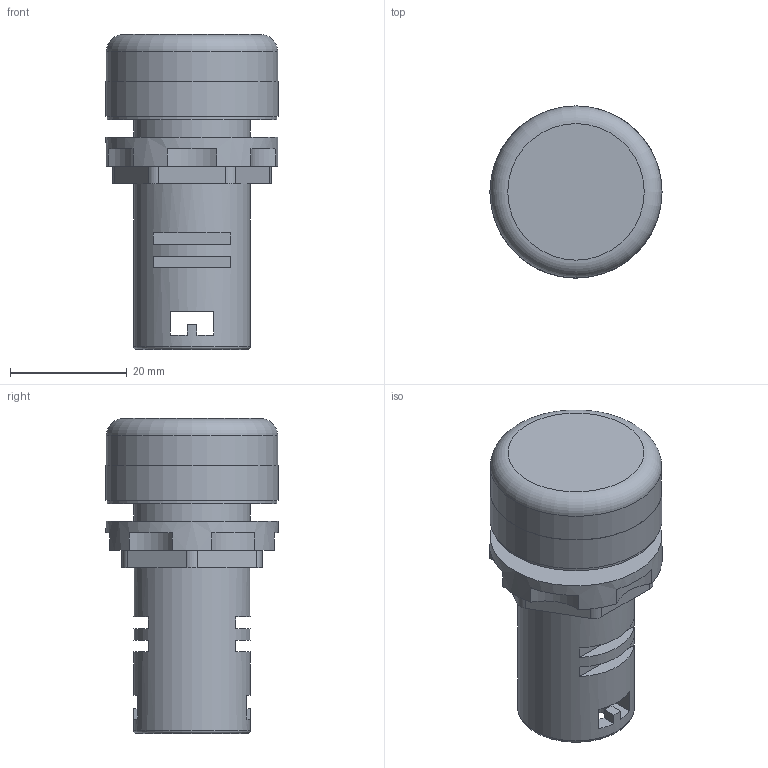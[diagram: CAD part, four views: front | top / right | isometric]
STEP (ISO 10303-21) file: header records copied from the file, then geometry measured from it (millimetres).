
FILE_DESCRIPTION(('FreeCAD Model'),'2;1');
FILE_NAME('Open CASCADE Shape Model','2023-05-06T18:44:57',('Author'),( ''),'Open CASCADE STEP processor 7.5','FreeCAD','Unknown');
FILE_SCHEMA(('AUTOMOTIVE_DESIGN { 1 0 10303 214 1 1 1 1 }'));
Length unit declared in the file: millimetre
Products named in the file (1): button SINALEIRO
Bounding box: 29.5 x 29.5 x 54 mm (x, y, z)
Volume: 22423.2 mm3; surface area: 8399.7 mm2
Topology: 1 solids, 2 shells, 73 faces, 180 edges, 120 vertices
Faces by surface type: plane 49, cylinder 22, torus 2
Full cylindrical faces by diameter (mm): 5.5 x2, 20 x2, 22 x1, 25 x1, 29 x1, 29.4 x1, 29.5 x2
Entity records: 2924 total; most frequent: DIRECTION 390, CARTESIAN_POINT 352, ORIENTED_EDGE 326, EDGE_CURVE 163, AXIS2_PLACEMENT_3D 153, VERTEX_POINT 115, EDGE_LOOP 100, FACE_OUTER_BOUND 85
